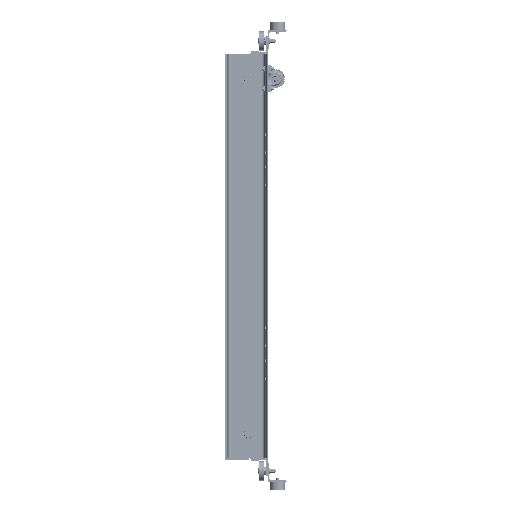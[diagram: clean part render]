
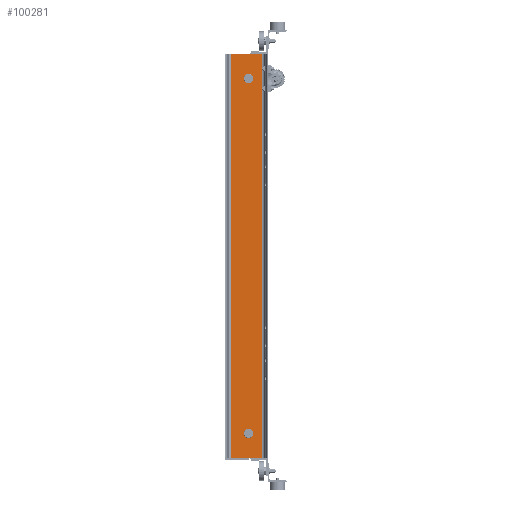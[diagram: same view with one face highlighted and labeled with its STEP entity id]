
A CAD part, left-side view. The second image highlights one B-rep face of the part: STEP entity #100281.
In plain terms, the highlighted planar face has unit normal (-1, 0, 0) as drawn and (1, 0, 0) by its records, which use the part's own axes.
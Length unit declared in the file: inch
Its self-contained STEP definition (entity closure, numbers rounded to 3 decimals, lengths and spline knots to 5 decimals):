
#456 = DIRECTION ( 'NONE',  ( 0., 1., 0. ) ) ;
#875 = FACE_OUTER_BOUND ( 'NONE', #123737, .T. ) ;
#2561 = EDGE_CURVE ( 'NONE', #26497, #92745, #131536, .T. ) ;
#2946 = DIRECTION ( 'NONE',  ( -1., 0., 0. ) ) ;
#6887 = EDGE_CURVE ( 'NONE', #58414, #92745, #63295, .T. ) ;
#13820 = EDGE_CURVE ( 'NONE', #117305, #26497, #136691, .T. ) ;
#15531 = DIRECTION ( 'NONE',  ( 0., -1., 0. ) ) ;
#17263 = EDGE_CURVE ( 'NONE', #147037, #164679, #215973, .T. ) ;
#23205 = EDGE_LOOP ( 'NONE', ( #150441, #160615 ) ) ;
#23918 = AXIS2_PLACEMENT_3D ( 'NONE', #58476, #59575, #158408 ) ;
#26497 = VERTEX_POINT ( 'NONE', #79733 ) ;
#28189 = EDGE_CURVE ( 'NONE', #164679, #147037, #140876, .T. ) ;
#36592 = ORIENTED_EDGE ( 'NONE', *, *, #2561, .T. ) ;
#38516 = ORIENTED_EDGE ( 'NONE', *, *, #6887, .F. ) ;
#39874 = VERTEX_POINT ( 'NONE', #67880 ) ;
#46065 = CARTESIAN_POINT ( 'NONE',  ( 0.353, 1.14232, 37.5 ) ) ;
#51892 = CARTESIAN_POINT ( 'NONE',  ( 0.353, 6.85768, 37.5 ) ) ;
#56346 = CARTESIAN_POINT ( 'NONE',  ( 0.353, 3.622, -33.789 ) ) ;
#57017 = DIRECTION ( 'NONE',  ( 0., 1., 0. ) ) ;
#57500 = CARTESIAN_POINT ( 'NONE',  ( 0.353, 3.622, -32.211 ) ) ;
#58414 = VERTEX_POINT ( 'NONE', #111653 ) ;
#58476 = CARTESIAN_POINT ( 'NONE',  ( 0.353, 3.622, -33. ) ) ;
#59167 = CARTESIAN_POINT ( 'NONE',  ( 0.353, 1.14232, -37.5 ) ) ;
#59575 = DIRECTION ( 'NONE',  ( -1., 0., 0. ) ) ;
#63295 = LINE ( 'NONE', #148749, #175484 ) ;
#64706 = CARTESIAN_POINT ( 'NONE',  ( 0.353, 6.85768, 37.5 ) ) ;
#64732 = EDGE_LOOP ( 'NONE', ( #92686, #73556 ) ) ;
#66669 = ORIENTED_EDGE ( 'NONE', *, *, #13820, .T. ) ;
#66951 = EDGE_CURVE ( 'NONE', #117305, #58414, #75129, .T. ) ;
#67880 = CARTESIAN_POINT ( 'NONE',  ( 0.353, 3.622, 33.789 ) ) ;
#68529 = PLANE ( 'NONE',  #163979 ) ;
#70426 = DIRECTION ( 'NONE',  ( -1., 0., 0. ) ) ;
#73556 = ORIENTED_EDGE ( 'NONE', *, *, #17263, .T. ) ;
#75129 = LINE ( 'NONE', #210484, #88145 ) ;
#76789 = VECTOR ( 'NONE', #112730, 39.37008 ) ;
#79720 = CIRCLE ( 'NONE', #203764, 0.789 ) ;
#79733 = CARTESIAN_POINT ( 'NONE',  ( 0.353, 1.14232, 37.5 ) ) ;
#80209 = VECTOR ( 'NONE', #172157, 39.37008 ) ;
#80799 = VERTEX_POINT ( 'NONE', #106423 ) ;
#88145 = VECTOR ( 'NONE', #157298, 39.37008 ) ;
#90383 = CARTESIAN_POINT ( 'NONE',  ( 0.353, 3.622, 33. ) ) ;
#92686 = ORIENTED_EDGE ( 'NONE', *, *, #28189, .T. ) ;
#92745 = VERTEX_POINT ( 'NONE', #59167 ) ;
#100281 = ADVANCED_FACE ( 'NONE', ( #122922, #875, #119630 ), #68529, .T. ) ;
#103374 = CARTESIAN_POINT ( 'NONE',  ( 0.353, 6.85768, 37.5 ) ) ;
#106423 = CARTESIAN_POINT ( 'NONE',  ( 0.353, 3.622, 32.211 ) ) ;
#111653 = CARTESIAN_POINT ( 'NONE',  ( 0.353, 6.85768, -37.5 ) ) ;
#112730 = DIRECTION ( 'NONE',  ( 0., 0., -1. ) ) ;
#117305 = VERTEX_POINT ( 'NONE', #64706 ) ;
#119630 = FACE_BOUND ( 'NONE', #64732, .T. ) ;
#120130 = AXIS2_PLACEMENT_3D ( 'NONE', #156832, #153548, #456 ) ;
#122922 = FACE_BOUND ( 'NONE', #23205, .T. ) ;
#123737 = EDGE_LOOP ( 'NONE', ( #38516, #141999, #66669, #36592 ) ) ;
#130968 = AXIS2_PLACEMENT_3D ( 'NONE', #154974, #2946, #138335 ) ;
#131536 = LINE ( 'NONE', #46065, #76789 ) ;
#136691 = LINE ( 'NONE', #103374, #80209 ) ;
#138335 = DIRECTION ( 'NONE',  ( 0., 1., 0. ) ) ;
#140876 = CIRCLE ( 'NONE', #23918, 0.789 ) ;
#141999 = ORIENTED_EDGE ( 'NONE', *, *, #66951, .F. ) ;
#147037 = VERTEX_POINT ( 'NONE', #56346 ) ;
#148669 = EDGE_CURVE ( 'NONE', #39874, #80799, #169690, .T. ) ;
#148749 = CARTESIAN_POINT ( 'NONE',  ( 0.353, 6.85768, -37.5 ) ) ;
#150441 = ORIENTED_EDGE ( 'NONE', *, *, #148669, .T. ) ;
#153548 = DIRECTION ( 'NONE',  ( -1., 0., 0. ) ) ;
#153987 = DIRECTION ( 'NONE',  ( 0., 1., 0. ) ) ;
#154974 = CARTESIAN_POINT ( 'NONE',  ( 0.353, 3.622, -33. ) ) ;
#156832 = CARTESIAN_POINT ( 'NONE',  ( 0.353, 3.622, 33. ) ) ;
#157298 = DIRECTION ( 'NONE',  ( 0., 0., -1. ) ) ;
#158408 = DIRECTION ( 'NONE',  ( 0., 1., 0. ) ) ;
#160615 = ORIENTED_EDGE ( 'NONE', *, *, #202955, .T. ) ;
#163979 = AXIS2_PLACEMENT_3D ( 'NONE', #51892, #187241, #153987 ) ;
#164679 = VERTEX_POINT ( 'NONE', #57500 ) ;
#169690 = CIRCLE ( 'NONE', #120130, 0.789 ) ;
#172157 = DIRECTION ( 'NONE',  ( 0., -1., 0. ) ) ;
#175484 = VECTOR ( 'NONE', #15531, 39.37008 ) ;
#187241 = DIRECTION ( 'NONE',  ( 1., 0., 0. ) ) ;
#202955 = EDGE_CURVE ( 'NONE', #80799, #39874, #79720, .T. ) ;
#203764 = AXIS2_PLACEMENT_3D ( 'NONE', #90383, #70426, #57017 ) ;
#210484 = CARTESIAN_POINT ( 'NONE',  ( 0.353, 6.85768, 37.5 ) ) ;
#215973 = CIRCLE ( 'NONE', #130968, 0.789 ) ;
